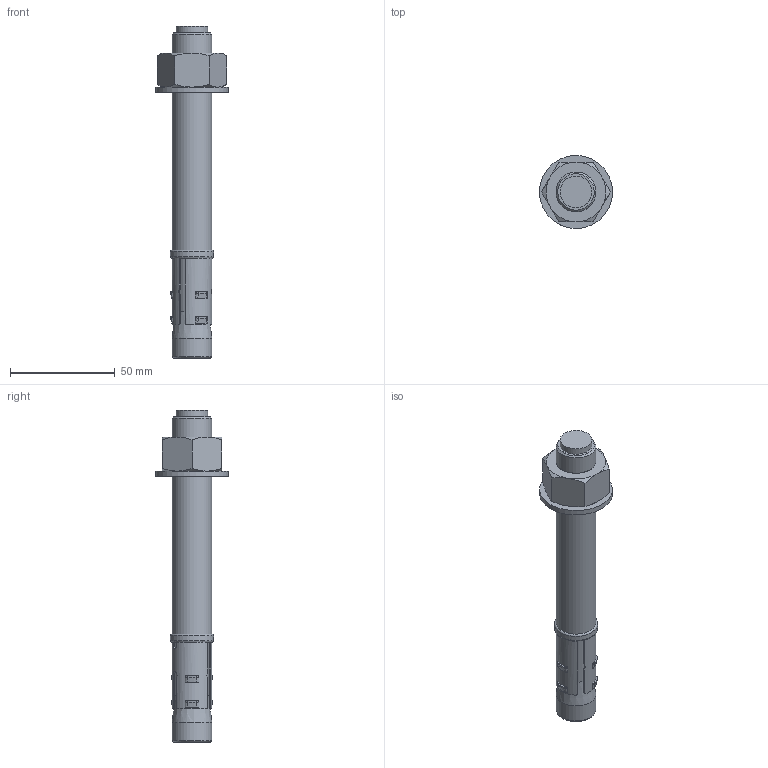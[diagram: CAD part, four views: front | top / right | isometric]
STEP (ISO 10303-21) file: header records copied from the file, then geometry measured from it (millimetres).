
FILE_DESCRIPTION(/* description */ (''),/* implementation_level */ '2;1');
FILE_NAME(/* name */ 'C:\001_Work\Designs\SAS\SAS-0.750 x 6.250 ANCHOR.stp',/* time_stamp */ '2015-10-10T16:18:09-04:00',/* author */ ('rramoutar'),/* organization */ ('Mason Industries Inc.'),/* preprocessor_version */ 'ST-DEVELOPER v15.6',/* originating_system */ 'Autodesk Inventor 2015',/* authorisation */ '');
FILE_SCHEMA (('AUTOMOTIVE_DESIGN { 1 0 10303 214 3 1 1 }'));
Length unit declared in the file: inch
Products named in the file (1): SAS-0.750 x 6.250 ANCHOR
Bounding box: 34.88 x 34.88 x 158.75 mm (x, y, z)
Volume: 51765 mm3; surface area: 15712.8 mm2
Topology: 1 solids, 1 shells, 120 faces, 295 edges, 184 vertices
Faces by surface type: plane 41, bspline 24, cylinder 23, cone 23, torus 9
Full cylindrical faces by diameter (mm): 15.24 x1, 15.875 x1, 17.462 x1, 19.05 x3, 20.625 x1, 20.637 x1, 34.925 x1
Entity records: 4367 total; most frequent: CARTESIAN_POINT 1682, ORIENTED_EDGE 550, DIRECTION 462, EDGE_CURVE 272, AXIS2_PLACEMENT_3D 189, VERTEX_POINT 179, EDGE_LOOP 152, STYLED_ITEM 121
